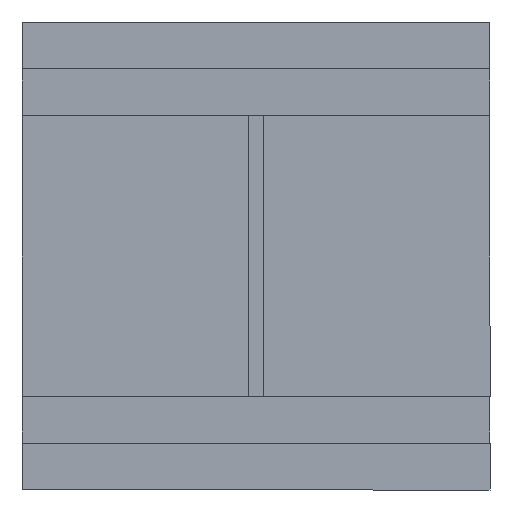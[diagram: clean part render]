
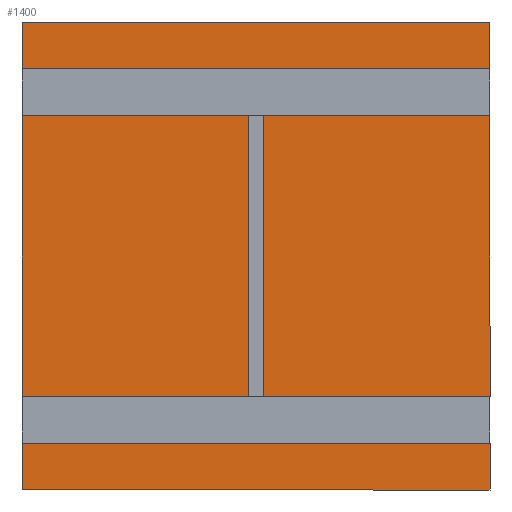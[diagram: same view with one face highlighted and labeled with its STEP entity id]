
A CAD part, front view. The second image highlights one B-rep face of the part: STEP entity #1400.
In plain terms, the highlighted planar face has unit normal (0, -1, 0).
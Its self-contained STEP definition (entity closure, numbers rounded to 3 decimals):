
#3 = LINE ( 'NONE', #956, #1135 ) ;
#4 = CARTESIAN_POINT ( 'NONE',  ( -490., 195., 100. ) ) ;
#5 = DIRECTION ( 'NONE',  ( -1., 0., 0. ) ) ;
#16 = CARTESIAN_POINT ( 'NONE',  ( -490., 195., 800. ) ) ;
#19 = EDGE_CURVE ( 'NONE', #1552, #72, #1277, .T. ) ;
#31 = VERTEX_POINT ( 'NONE', #329 ) ;
#45 = VERTEX_POINT ( 'NONE', #590 ) ;
#57 = VECTOR ( 'NONE', #722, 1000. ) ;
#60 = ORIENTED_EDGE ( 'NONE', *, *, #1656, .F. ) ;
#63 = ORIENTED_EDGE ( 'NONE', *, *, #1364, .F. ) ;
#69 = EDGE_CURVE ( 'NONE', #45, #450, #696, .T. ) ;
#70 = CARTESIAN_POINT ( 'NONE',  ( 490., 195., 800. ) ) ;
#72 = VERTEX_POINT ( 'NONE', #433 ) ;
#94 = CARTESIAN_POINT ( 'NONE',  ( -490., 195., 0. ) ) ;
#118 = LINE ( 'NONE', #1601, #139 ) ;
#123 = VERTEX_POINT ( 'NONE', #237 ) ;
#131 = CARTESIAN_POINT ( 'NONE',  ( -500., 195., -100. ) ) ;
#139 = VECTOR ( 'NONE', #794, 1000. ) ;
#146 = CARTESIAN_POINT ( 'NONE',  ( -490., 195., 700. ) ) ;
#160 = VERTEX_POINT ( 'NONE', #1331 ) ;
#168 = VECTOR ( 'NONE', #1654, 1000. ) ;
#186 = CARTESIAN_POINT ( 'NONE',  ( 0., 195., 0. ) ) ;
#189 = ORIENTED_EDGE ( 'NONE', *, *, #389, .F. ) ;
#207 = PLANE ( 'NONE',  #1514 ) ;
#233 = DIRECTION ( 'NONE',  ( 0., 0., 1. ) ) ;
#237 = CARTESIAN_POINT ( 'NONE',  ( 490., 195., 100. ) ) ;
#253 = VECTOR ( 'NONE', #1181, 1000. ) ;
#254 = ORIENTED_EDGE ( 'NONE', *, *, #69, .F. ) ;
#281 = DIRECTION ( 'NONE',  ( 1., 0., 0. ) ) ;
#282 = VERTEX_POINT ( 'NONE', #1698 ) ;
#309 = VERTEX_POINT ( 'NONE', #94 ) ;
#329 = CARTESIAN_POINT ( 'NONE',  ( 500., 195., 0. ) ) ;
#342 = EDGE_CURVE ( 'NONE', #1697, #1721, #1557, .T. ) ;
#389 = EDGE_CURVE ( 'NONE', #309, #1741, #1751, .T. ) ;
#393 = ORIENTED_EDGE ( 'NONE', *, *, #1631, .F. ) ;
#433 = CARTESIAN_POINT ( 'NONE',  ( -500., 195., 700. ) ) ;
#448 = VECTOR ( 'NONE', #1602, 1000. ) ;
#450 = VERTEX_POINT ( 'NONE', #1034 ) ;
#465 = ORIENTED_EDGE ( 'NONE', *, *, #1343, .F. ) ;
#490 = EDGE_CURVE ( 'NONE', #450, #1697, #118, .T. ) ;
#506 = ORIENTED_EDGE ( 'NONE', *, *, #937, .F. ) ;
#507 = VERTEX_POINT ( 'NONE', #1188 ) ;
#518 = VECTOR ( 'NONE', #733, 1000. ) ;
#525 = CARTESIAN_POINT ( 'NONE',  ( 500., 195., 800. ) ) ;
#533 = VECTOR ( 'NONE', #1204, 1000. ) ;
#540 = VECTOR ( 'NONE', #1230, 1000. ) ;
#549 = CARTESIAN_POINT ( 'NONE',  ( -490., 195., 100. ) ) ;
#573 = LINE ( 'NONE', #986, #654 ) ;
#574 = ORIENTED_EDGE ( 'NONE', *, *, #1353, .F. ) ;
#582 = CARTESIAN_POINT ( 'NONE',  ( -500., 195., 700. ) ) ;
#585 = ORIENTED_EDGE ( 'NONE', *, *, #342, .F. ) ;
#586 = CARTESIAN_POINT ( 'NONE',  ( 490., 195., 700. ) ) ;
#590 = CARTESIAN_POINT ( 'NONE',  ( -490., 195., 700. ) ) ;
#596 = LINE ( 'NONE', #846, #1302 ) ;
#629 = DIRECTION ( 'NONE',  ( 0., 0., -1. ) ) ;
#641 = VERTEX_POINT ( 'NONE', #131 ) ;
#652 = VECTOR ( 'NONE', #281, 1000. ) ;
#654 = VECTOR ( 'NONE', #1105, 1000. ) ;
#657 = LINE ( 'NONE', #1511, #1308 ) ;
#672 = ORIENTED_EDGE ( 'NONE', *, *, #19, .F. ) ;
#690 = VERTEX_POINT ( 'NONE', #70 ) ;
#695 = LINE ( 'NONE', #146, #929 ) ;
#696 = LINE ( 'NONE', #16, #1418 ) ;
#722 = DIRECTION ( 'NONE',  ( 0., 0., -1. ) ) ;
#733 = DIRECTION ( 'NONE',  ( 0., 0., 1. ) ) ;
#788 = EDGE_CURVE ( 'NONE', #1473, #160, #908, .T. ) ;
#794 = DIRECTION ( 'NONE',  ( -1., 0., 0. ) ) ;
#795 = CARTESIAN_POINT ( 'NONE',  ( 500., 195., 900. ) ) ;
#797 = VERTEX_POINT ( 'NONE', #1059 ) ;
#800 = LINE ( 'NONE', #907, #533 ) ;
#801 = ORIENTED_EDGE ( 'NONE', *, *, #1046, .F. ) ;
#804 = EDGE_CURVE ( 'NONE', #1336, #641, #657, .T. ) ;
#816 = CARTESIAN_POINT ( 'NONE',  ( -490., 195., 0. ) ) ;
#818 = DIRECTION ( 'NONE',  ( -1., 0., 0. ) ) ;
#827 = CARTESIAN_POINT ( 'NONE',  ( 490., 195., 0. ) ) ;
#846 = CARTESIAN_POINT ( 'NONE',  ( 500., 195., 900. ) ) ;
#848 = CARTESIAN_POINT ( 'NONE',  ( -500., 195., 800. ) ) ;
#886 = CARTESIAN_POINT ( 'NONE',  ( -500., 195., 900. ) ) ;
#889 = CARTESIAN_POINT ( 'NONE',  ( -500., 195., 100. ) ) ;
#907 = CARTESIAN_POINT ( 'NONE',  ( -500., 195., 0. ) ) ;
#908 = LINE ( 'NONE', #1711, #1283 ) ;
#911 = EDGE_CURVE ( 'NONE', #690, #1378, #1414, .T. ) ;
#929 = VECTOR ( 'NONE', #1518, 1000. ) ;
#937 = EDGE_CURVE ( 'NONE', #160, #123, #3, .T. ) ;
#956 = CARTESIAN_POINT ( 'NONE',  ( 500., 195., 100. ) ) ;
#974 = VERTEX_POINT ( 'NONE', #827 ) ;
#986 = CARTESIAN_POINT ( 'NONE',  ( 490., 195., 700. ) ) ;
#996 = CARTESIAN_POINT ( 'NONE',  ( 490., 195., 800. ) ) ;
#1007 = DIRECTION ( 'NONE',  ( 0., 1., 0. ) ) ;
#1016 = DIRECTION ( 'NONE',  ( 0., 0., -1. ) ) ;
#1029 = ORIENTED_EDGE ( 'NONE', *, *, #490, .F. ) ;
#1034 = CARTESIAN_POINT ( 'NONE',  ( -490., 195., 800. ) ) ;
#1036 = VECTOR ( 'NONE', #1365, 1000. ) ;
#1046 = EDGE_CURVE ( 'NONE', #31, #1336, #1274, .T. ) ;
#1059 = CARTESIAN_POINT ( 'NONE',  ( 500., 195., 900. ) ) ;
#1096 = DIRECTION ( 'NONE',  ( 0., 0., 1. ) ) ;
#1103 = CARTESIAN_POINT ( 'NONE',  ( 500., 195., 0. ) ) ;
#1105 = DIRECTION ( 'NONE',  ( 1., 0., 0. ) ) ;
#1122 = ORIENTED_EDGE ( 'NONE', *, *, #804, .F. ) ;
#1133 = EDGE_CURVE ( 'NONE', #1741, #1552, #1692, .T. ) ;
#1135 = VECTOR ( 'NONE', #818, 1000. ) ;
#1146 = EDGE_LOOP ( 'NONE', ( #393, #1122, #801, #465, #63, #506, #1505, #1381, #1371, #60, #1345, #1477, #585, #1029, #254, #1363, #672, #1155, #189, #574 ) ) ;
#1155 = ORIENTED_EDGE ( 'NONE', *, *, #1133, .F. ) ;
#1162 = VECTOR ( 'NONE', #629, 1000. ) ;
#1181 = DIRECTION ( 'NONE',  ( 0., 0., 1. ) ) ;
#1188 = CARTESIAN_POINT ( 'NONE',  ( -500., 195., 0. ) ) ;
#1190 = CARTESIAN_POINT ( 'NONE',  ( -500., 195., 100. ) ) ;
#1204 = DIRECTION ( 'NONE',  ( 0., 0., 1. ) ) ;
#1212 = CARTESIAN_POINT ( 'NONE',  ( 500., 195., -100. ) ) ;
#1224 = LINE ( 'NONE', #1103, #168 ) ;
#1230 = DIRECTION ( 'NONE',  ( 0., 0., 1. ) ) ;
#1231 = LINE ( 'NONE', #1393, #1162 ) ;
#1274 = LINE ( 'NONE', #1691, #1387 ) ;
#1277 = LINE ( 'NONE', #582, #518 ) ;
#1283 = VECTOR ( 'NONE', #1732, 1000. ) ;
#1297 = FACE_OUTER_BOUND ( 'NONE', #1146, .T. ) ;
#1302 = VECTOR ( 'NONE', #1016, 1000. ) ;
#1308 = VECTOR ( 'NONE', #5, 1000. ) ;
#1331 = CARTESIAN_POINT ( 'NONE',  ( 500., 195., 100. ) ) ;
#1336 = VERTEX_POINT ( 'NONE', #1212 ) ;
#1343 = EDGE_CURVE ( 'NONE', #974, #31, #1224, .T. ) ;
#1345 = ORIENTED_EDGE ( 'NONE', *, *, #1377, .F. ) ;
#1353 = EDGE_CURVE ( 'NONE', #507, #309, #1626, .T. ) ;
#1363 = ORIENTED_EDGE ( 'NONE', *, *, #1730, .F. ) ;
#1364 = EDGE_CURVE ( 'NONE', #123, #974, #1231, .T. ) ;
#1365 = DIRECTION ( 'NONE',  ( 1., 0., 0. ) ) ;
#1371 = ORIENTED_EDGE ( 'NONE', *, *, #911, .F. ) ;
#1377 = EDGE_CURVE ( 'NONE', #797, #282, #596, .T. ) ;
#1378 = VERTEX_POINT ( 'NONE', #586 ) ;
#1381 = ORIENTED_EDGE ( 'NONE', *, *, #1728, .F. ) ;
#1387 = VECTOR ( 'NONE', #1394, 1000. ) ;
#1393 = CARTESIAN_POINT ( 'NONE',  ( 490., 195., 100. ) ) ;
#1394 = DIRECTION ( 'NONE',  ( 0., 0., -1. ) ) ;
#1400 = ADVANCED_FACE ( 'NONE', ( #1297 ), #207, .F. ) ;
#1414 = LINE ( 'NONE', #996, #57 ) ;
#1418 = VECTOR ( 'NONE', #1096, 1000. ) ;
#1422 = DIRECTION ( 'NONE',  ( -1., 0., 0. ) ) ;
#1473 = VERTEX_POINT ( 'NONE', #1678 ) ;
#1477 = ORIENTED_EDGE ( 'NONE', *, *, #1563, .F. ) ;
#1505 = ORIENTED_EDGE ( 'NONE', *, *, #788, .F. ) ;
#1511 = CARTESIAN_POINT ( 'NONE',  ( 500., 195., -100. ) ) ;
#1514 = AXIS2_PLACEMENT_3D ( 'NONE', #186, #1007, #233 ) ;
#1518 = DIRECTION ( 'NONE',  ( 1., 0., 0. ) ) ;
#1549 = VECTOR ( 'NONE', #1422, 1000. ) ;
#1552 = VERTEX_POINT ( 'NONE', #1190 ) ;
#1557 = LINE ( 'NONE', #886, #253 ) ;
#1563 = EDGE_CURVE ( 'NONE', #1721, #797, #1584, .T. ) ;
#1584 = LINE ( 'NONE', #795, #652 ) ;
#1601 = CARTESIAN_POINT ( 'NONE',  ( -500., 195., 800. ) ) ;
#1602 = DIRECTION ( 'NONE',  ( -1., 0., 0. ) ) ;
#1626 = LINE ( 'NONE', #816, #1036 ) ;
#1631 = EDGE_CURVE ( 'NONE', #641, #507, #800, .T. ) ;
#1654 = DIRECTION ( 'NONE',  ( 1., 0., 0. ) ) ;
#1656 = EDGE_CURVE ( 'NONE', #282, #690, #1731, .T. ) ;
#1657 = CARTESIAN_POINT ( 'NONE',  ( -500., 195., 900. ) ) ;
#1678 = CARTESIAN_POINT ( 'NONE',  ( 500., 195., 700. ) ) ;
#1691 = CARTESIAN_POINT ( 'NONE',  ( 500., 195., -100. ) ) ;
#1692 = LINE ( 'NONE', #889, #1549 ) ;
#1697 = VERTEX_POINT ( 'NONE', #848 ) ;
#1698 = CARTESIAN_POINT ( 'NONE',  ( 500., 195., 800. ) ) ;
#1711 = CARTESIAN_POINT ( 'NONE',  ( 500., 195., 700. ) ) ;
#1721 = VERTEX_POINT ( 'NONE', #1657 ) ;
#1728 = EDGE_CURVE ( 'NONE', #1378, #1473, #573, .T. ) ;
#1730 = EDGE_CURVE ( 'NONE', #72, #45, #695, .T. ) ;
#1731 = LINE ( 'NONE', #525, #448 ) ;
#1732 = DIRECTION ( 'NONE',  ( 0., 0., -1. ) ) ;
#1741 = VERTEX_POINT ( 'NONE', #4 ) ;
#1751 = LINE ( 'NONE', #549, #540 ) ;
